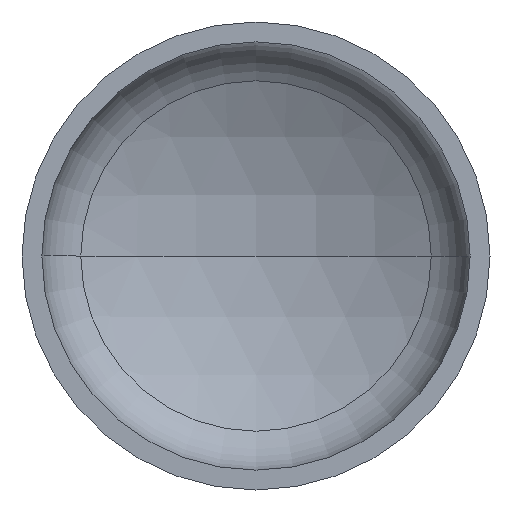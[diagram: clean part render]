
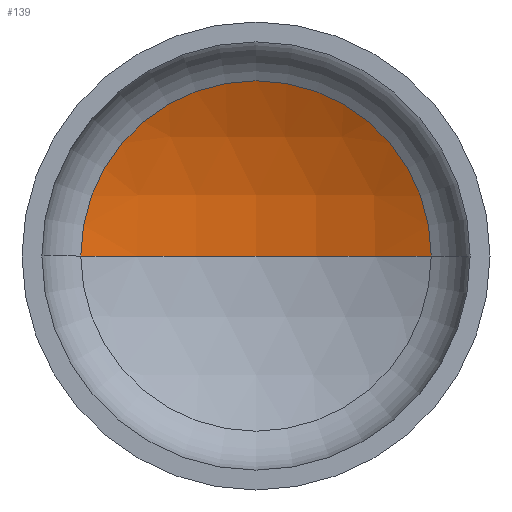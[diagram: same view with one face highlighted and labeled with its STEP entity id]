
A CAD part, front view. The second image highlights one B-rep face of the part: STEP entity #139.
In plain terms, the highlighted spherical face has radius 640 mm.
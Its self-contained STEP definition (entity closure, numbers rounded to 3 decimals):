
#3 = CARTESIAN_POINT ( 'NONE',  ( -299.495, 220.469, 0. ) ) ;
#7 = EDGE_LOOP ( 'NONE', ( #83, #120, #95 ) ) ;
#32 = CIRCLE ( 'NONE', #55, 299.495 ) ;
#43 = VERTEX_POINT ( 'NONE', #271 ) ;
#44 = AXIS2_PLACEMENT_3D ( 'NONE', #273, #292, #291 ) ;
#52 = AXIS2_PLACEMENT_3D ( 'NONE', #230, #227, #229 ) ;
#55 = AXIS2_PLACEMENT_3D ( 'NONE', #206, #153, #405 ) ;
#67 = AXIS2_PLACEMENT_3D ( 'NONE', #360, #321, #310 ) ;
#83 = ORIENTED_EDGE ( 'NONE', *, *, #173, .F. ) ;
#95 = ORIENTED_EDGE ( 'NONE', *, *, #158, .T. ) ;
#108 = VERTEX_POINT ( 'NONE', #338 ) ;
#120 = ORIENTED_EDGE ( 'NONE', *, *, #165, .T. ) ;
#139 = ADVANCED_FACE ( 'NONE', ( #195 ), #248, .F. ) ;
#153 = DIRECTION ( 'NONE',  ( 0., -1., 0. ) ) ;
#158 = EDGE_CURVE ( 'NONE', #108, #388, #32, .T. ) ;
#165 = EDGE_CURVE ( 'NONE', #43, #108, #175, .T. ) ;
#173 = EDGE_CURVE ( 'NONE', #43, #388, #408, .T. ) ;
#175 = CIRCLE ( 'NONE', #52, 640. ) ;
#195 = FACE_OUTER_BOUND ( 'NONE', #7, .T. ) ;
#206 = CARTESIAN_POINT ( 'NONE',  ( 0., 220.469, 0. ) ) ;
#227 = DIRECTION ( 'NONE',  ( 0., 0., -1. ) ) ;
#229 = DIRECTION ( 'NONE',  ( -1., 0., 0. ) ) ;
#230 = CARTESIAN_POINT ( 'NONE',  ( 0., -345.131, 0. ) ) ;
#248 = SPHERICAL_SURFACE ( 'NONE', #67, 640. ) ;
#271 = CARTESIAN_POINT ( 'NONE',  ( 0., 294.869, 0. ) ) ;
#273 = CARTESIAN_POINT ( 'NONE',  ( 0., -345.131, 0. ) ) ;
#291 = DIRECTION ( 'NONE',  ( 1., 0., 0. ) ) ;
#292 = DIRECTION ( 'NONE',  ( 0., 0., 1. ) ) ;
#310 = DIRECTION ( 'NONE',  ( -1., 0., 0. ) ) ;
#321 = DIRECTION ( 'NONE',  ( 0., 0., -1. ) ) ;
#338 = CARTESIAN_POINT ( 'NONE',  ( 299.495, 220.469, 0. ) ) ;
#360 = CARTESIAN_POINT ( 'NONE',  ( 0., -345.131, 0. ) ) ;
#388 = VERTEX_POINT ( 'NONE', #3 ) ;
#405 = DIRECTION ( 'NONE',  ( 1., 0., 0. ) ) ;
#408 = CIRCLE ( 'NONE', #44, 640. ) ;
